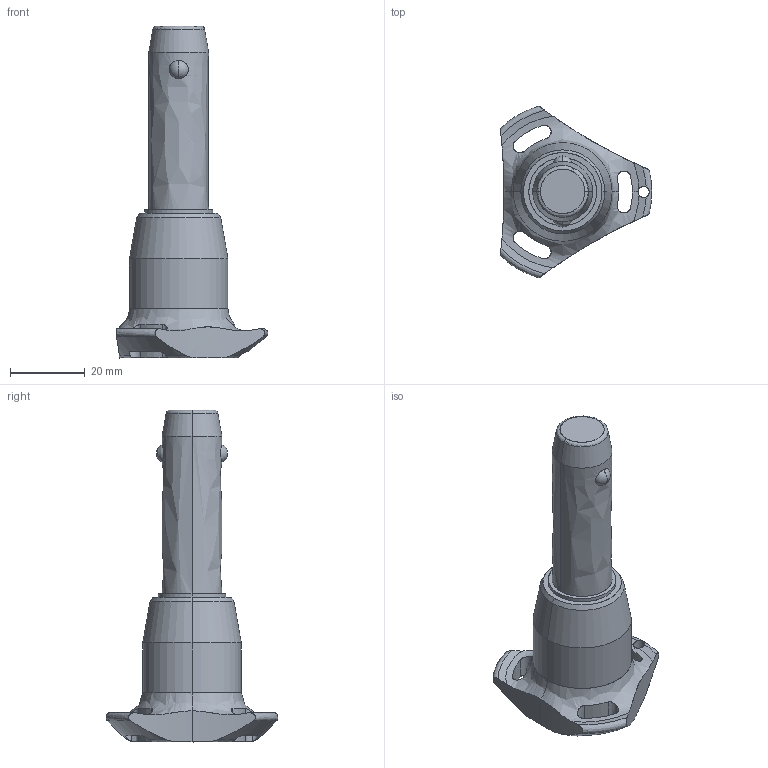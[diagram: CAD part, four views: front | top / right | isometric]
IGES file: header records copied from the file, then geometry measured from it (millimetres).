
Start section: SolidWorks IGES file using analytic representation for surfaces
Global section: file name: C:\Users\ianosborn\Desktop\QR1714_v2\QR1714_v2_20251112_IGES\QR1714.M16-035-S.igs; native system: SolidWorks 2019; preprocessor: SolidWorks 2019; author: IanOsborn; date: 251112.101949; units: millimetre
Bounding box: 40.5 x 45.88 x 88.7 mm (x, y, z)
Surface area: 8417.8 mm2 (no closed solid volume)
Topology: 0 solids, 0 shells, 65 faces, 1379 edges, 1375 vertices
Faces by surface type: revolution 50, bspline 15
